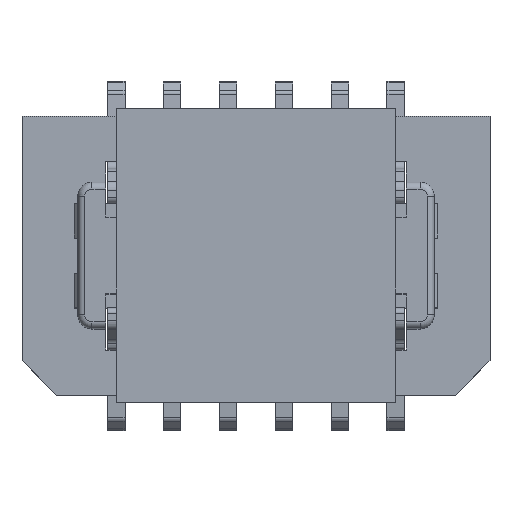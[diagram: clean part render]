
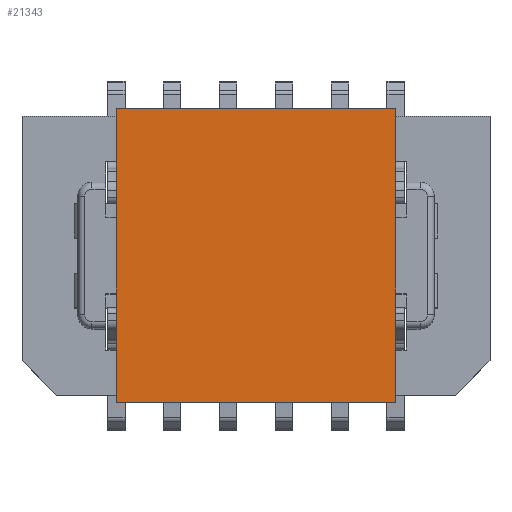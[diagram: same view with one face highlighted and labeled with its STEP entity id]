
A CAD part, top view. The second image highlights one B-rep face of the part: STEP entity #21343.
In plain terms, the highlighted planar face has unit normal (0, 0, 1).
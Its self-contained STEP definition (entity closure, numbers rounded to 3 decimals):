
#21291=CARTESIAN_POINT('Vertex',(-2.,2.1,4.45)) ;
#21294=CARTESIAN_POINT('Line Origine',(0.,2.1,4.45)) ;
#21298=CARTESIAN_POINT('Vertex',(2.,2.1,4.45)) ;
#21313=CARTESIAN_POINT('Axis2P3D Location',(0.,-2.1,4.45)) ;
#21318=CARTESIAN_POINT('Line Origine',(-2.,0.,4.45)) ;
#21322=CARTESIAN_POINT('Vertex',(-2.,-2.1,4.45)) ;
#21325=CARTESIAN_POINT('Line Origine',(0.,-2.1,4.45)) ;
#21329=CARTESIAN_POINT('Vertex',(2.,-2.1,4.45)) ;
#21332=CARTESIAN_POINT('Line Origine',(2.,0.,4.45)) ;
#21295=DIRECTION('Vector Direction',(1.,0.,0.)) ;
#21314=DIRECTION('Axis2P3D Direction',(0.,0.,-1.)) ;
#21315=DIRECTION('Axis2P3D XDirection',(0.,1.,0.)) ;
#21319=DIRECTION('Vector Direction',(0.,1.,0.)) ;
#21326=DIRECTION('Vector Direction',(1.,0.,0.)) ;
#21333=DIRECTION('Vector Direction',(0.,1.,0.)) ;
#21316=AXIS2_PLACEMENT_3D('Plane Axis2P3D',#21313,#21314,#21315) ;
#21338=ORIENTED_EDGE('',*,*,#21300,.F.) ;
#21339=ORIENTED_EDGE('',*,*,#21324,.T.) ;
#21340=ORIENTED_EDGE('',*,*,#21331,.T.) ;
#21341=ORIENTED_EDGE('',*,*,#21336,.F.) ;
#21296=VECTOR('Line Direction',#21295,1.) ;
#21320=VECTOR('Line Direction',#21319,1.) ;
#21327=VECTOR('Line Direction',#21326,1.) ;
#21334=VECTOR('Line Direction',#21333,1.) ;
#21343=ADVANCED_FACE('\X2\76D6\X0\',(#21342),#21317,.F.) ;
#21300=EDGE_CURVE('',#21292,#21299,#21297,.T.) ;
#21324=EDGE_CURVE('',#21292,#21323,#21321,.F.) ;
#21331=EDGE_CURVE('',#21323,#21330,#21328,.T.) ;
#21336=EDGE_CURVE('',#21299,#21330,#21335,.F.) ;
#21337=EDGE_LOOP('',(#21338,#21339,#21340,#21341)) ;
#21342=FACE_OUTER_BOUND('',#21337,.T.) ;
#21297=LINE('Line',#21294,#21296) ;
#21321=LINE('Line',#21318,#21320) ;
#21328=LINE('Line',#21325,#21327) ;
#21335=LINE('Line',#21332,#21334) ;
#21317=PLANE('Plane',#21316) ;
#21292=VERTEX_POINT('',#21291) ;
#21299=VERTEX_POINT('',#21298) ;
#21323=VERTEX_POINT('',#21322) ;
#21330=VERTEX_POINT('',#21329) ;
